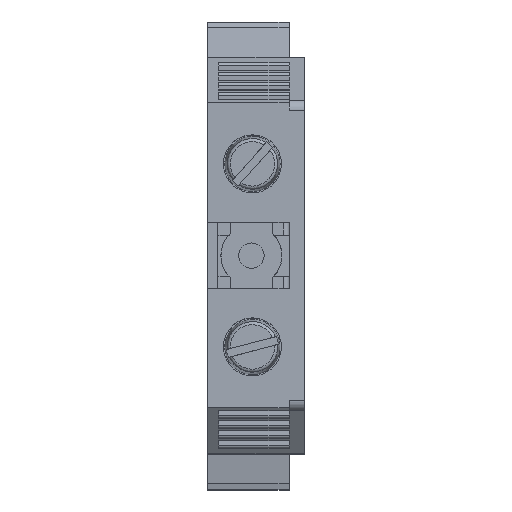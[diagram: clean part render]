
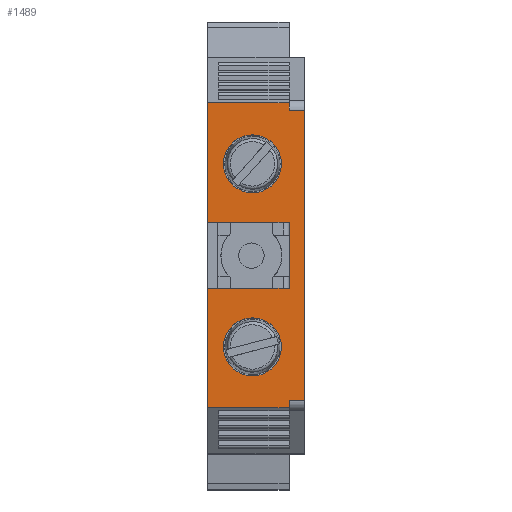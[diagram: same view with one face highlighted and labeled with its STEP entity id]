
A CAD part, top view. The second image highlights one B-rep face of the part: STEP entity #1489.
In plain terms, the highlighted planar face has unit normal (0, 0, 1).
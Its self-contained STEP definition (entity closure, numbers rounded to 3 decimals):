
#1489=ADVANCED_FACE('',(#36064,#36066,#36068),#36070,.T.);
#36064=FACE_BOUND('',#36065,.T.);
#36065=EDGE_LOOP('',(#64061,#64062,#64063,#64064,#64065,#64066,#64067,#64068,#64069,
#64070,#64071,#64072));
#36066=FACE_BOUND('',#36067,.T.);
#36067=EDGE_LOOP('',(#64073));
#36068=FACE_BOUND('',#36069,.T.);
#36069=EDGE_LOOP('',(#64074));
#36070=PLANE('',#36071);
#36071=AXIS2_PLACEMENT_3D('',#36072,#36073,#36074);
#36072=CARTESIAN_POINT('',(0.,15.,46.4));
#36073=DIRECTION('',(-0.,0.,1.));
#36074=DIRECTION('',(0.,-1.,0.));
#64061=ORIENTED_EDGE('',*,*,#86851,.T.);
#64062=ORIENTED_EDGE('',*,*,#87006,.T.);
#64063=ORIENTED_EDGE('',*,*,#86760,.T.);
#64064=ORIENTED_EDGE('',*,*,#87005,.F.);
#64065=ORIENTED_EDGE('',*,*,#86842,.T.);
#64066=ORIENTED_EDGE('',*,*,#87007,.T.);
#64067=ORIENTED_EDGE('',*,*,#87008,.F.);
#64068=ORIENTED_EDGE('',*,*,#87009,.T.);
#64069=ORIENTED_EDGE('',*,*,#87010,.F.);
#64070=ORIENTED_EDGE('',*,*,#87011,.F.);
#64071=ORIENTED_EDGE('',*,*,#87012,.F.);
#64072=ORIENTED_EDGE('',*,*,#87013,.F.);
#64073=ORIENTED_EDGE('',*,*,#87014,.T.);
#64074=ORIENTED_EDGE('',*,*,#87015,.T.);
#86760=EDGE_CURVE('',#98942,#98940,#98943,.T.);
#86842=EDGE_CURVE('',#99082,#99080,#99083,.T.);
#86851=EDGE_CURVE('',#99098,#99096,#99099,.T.);
#87005=EDGE_CURVE('',#99082,#98940,#99326,.T.);
#87006=EDGE_CURVE('',#99096,#98942,#99327,.T.);
#87007=EDGE_CURVE('',#99080,#99328,#99329,.T.);
#87008=EDGE_CURVE('',#99330,#99328,#99331,.T.);
#87009=EDGE_CURVE('',#99330,#99332,#99333,.T.);
#87010=EDGE_CURVE('',#99334,#99332,#99335,.T.);
#87011=EDGE_CURVE('',#99336,#99334,#99337,.T.);
#87012=EDGE_CURVE('',#99338,#99336,#99339,.T.);
#87013=EDGE_CURVE('',#99098,#99338,#99340,.T.);
#87014=EDGE_CURVE('',#99341,#99341,#99342,.F.);
#87015=EDGE_CURVE('',#99343,#99343,#99344,.F.);
#98940=VERTEX_POINT('',#119196);
#98942=VERTEX_POINT('',#119200);
#98943=LINE('',#119201,#119202);
#99080=VERTEX_POINT('',#119511);
#99082=VERTEX_POINT('',#119515);
#99083=LINE('',#119516,#119517);
#99096=VERTEX_POINT('',#119545);
#99098=VERTEX_POINT('',#119549);
#99099=LINE('',#119550,#119551);
#99326=LINE('',#120109,#120110);
#99327=LINE('',#120112,#120113);
#99328=VERTEX_POINT('',#120115);
#99329=LINE('',#120116,#120117);
#99330=VERTEX_POINT('',#120119);
#99331=LINE('',#120120,#120121);
#99332=VERTEX_POINT('',#120123);
#99333=LINE('',#120124,#120125);
#99334=VERTEX_POINT('',#120127);
#99335=LINE('',#120128,#120129);
#99336=VERTEX_POINT('',#120131);
#99337=LINE('',#120132,#120133);
#99338=VERTEX_POINT('',#120135);
#99339=LINE('',#120136,#120137);
#99340=LINE('',#120139,#120140);
#99341=VERTEX_POINT('',#120142);
#99342=CIRCLE('',#120143,2.85);
#99343=VERTEX_POINT('',#120147);
#99344=CIRCLE('',#120148,2.85);
#119196=CARTESIAN_POINT('',(8.,-3.25,46.4));
#119200=CARTESIAN_POINT('',(8.,3.25,46.4));
#119201=CARTESIAN_POINT('',(8.,3.25,46.4));
#119202=VECTOR('',#119203,1.);
#119203=DIRECTION('',(0.,-1.,0.));
#119511=CARTESIAN_POINT('',(0.,-15.,46.4));
#119515=CARTESIAN_POINT('',(0.,-3.25,46.4));
#119516=CARTESIAN_POINT('',(0.,-3.25,46.4));
#119517=VECTOR('',#119518,1.);
#119518=DIRECTION('',(0.,-1.,0.));
#119545=CARTESIAN_POINT('',(0.,3.25,46.4));
#119549=CARTESIAN_POINT('',(0.,15.,46.4));
#119550=CARTESIAN_POINT('',(0.,15.,46.4));
#119551=VECTOR('',#119552,1.);
#119552=DIRECTION('',(0.,-1.,0.));
#120109=CARTESIAN_POINT('',(0.,-3.25,46.4));
#120110=VECTOR('',#120111,1.);
#120111=DIRECTION('',(1.,0.,0.));
#120112=CARTESIAN_POINT('',(0.,3.25,46.4));
#120113=VECTOR('',#120114,1.);
#120114=DIRECTION('',(1.,0.,0.));
#120115=CARTESIAN_POINT('',(8.,-15.,46.4));
#120116=CARTESIAN_POINT('',(0.,-15.,46.4));
#120117=VECTOR('',#120118,1.);
#120118=DIRECTION('',(1.,0.,0.));
#120119=CARTESIAN_POINT('',(8.,-14.287,46.4));
#120120=CARTESIAN_POINT('',(8.,-14.287,46.4));
#120121=VECTOR('',#120122,1.);
#120122=DIRECTION('',(0.,-1.,0.));
#120123=CARTESIAN_POINT('',(9.5,-14.287,46.4));
#120124=CARTESIAN_POINT('',(8.,-14.287,46.4));
#120125=VECTOR('',#120126,1.);
#120126=DIRECTION('',(1.,0.,0.));
#120127=CARTESIAN_POINT('',(9.5,14.287,46.4));
#120128=CARTESIAN_POINT('',(9.5,14.287,46.4));
#120129=VECTOR('',#120130,1.);
#120130=DIRECTION('',(0.,-1.,0.));
#120131=CARTESIAN_POINT('',(8.,14.287,46.4));
#120132=CARTESIAN_POINT('',(8.,14.287,46.4));
#120133=VECTOR('',#120134,1.);
#120134=DIRECTION('',(1.,0.,0.));
#120135=CARTESIAN_POINT('',(8.,15.,46.4));
#120136=CARTESIAN_POINT('',(8.,15.,46.4));
#120137=VECTOR('',#120138,1.);
#120138=DIRECTION('',(0.,-1.,0.));
#120139=CARTESIAN_POINT('',(0.,15.,46.4));
#120140=VECTOR('',#120141,1.);
#120141=DIRECTION('',(1.,0.,0.));
#120142=CARTESIAN_POINT('',(4.4,11.85,46.4));
#120143=AXIS2_PLACEMENT_3D('',#120144,#120145,#120146);
#120144=CARTESIAN_POINT('',(4.4,9.,46.4));
#120145=DIRECTION('',(-0.,0.,1.));
#120146=DIRECTION('',(0.,1.,0.));
#120147=CARTESIAN_POINT('',(7.25,-9.,46.4));
#120148=AXIS2_PLACEMENT_3D('',#120149,#120150,#120151);
#120149=CARTESIAN_POINT('',(4.4,-9.,46.4));
#120150=DIRECTION('',(-0.,0.,1.));
#120151=DIRECTION('',(1.,0.,0.));
